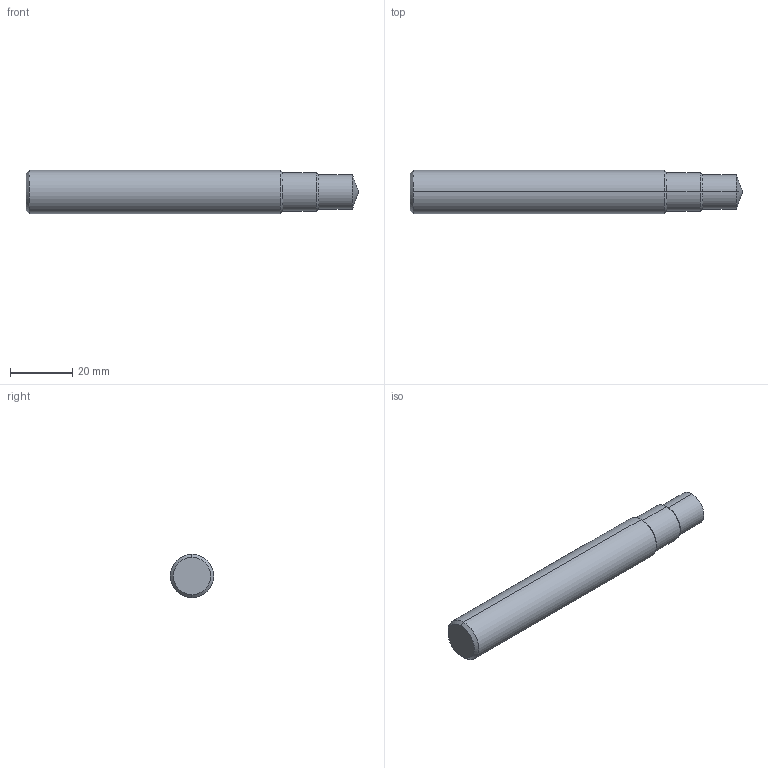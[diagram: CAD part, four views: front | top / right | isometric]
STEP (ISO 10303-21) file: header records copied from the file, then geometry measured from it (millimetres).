
FILE_DESCRIPTION (( 'STEP AP203' ), '1' );
FILE_NAME ('407030-RD-SAE-05A.STEP', '2024-10-02T18:09:15', ( '' ), ( '' ), 'SwSTEP 2.0', 'SolidWorks 2024', '' );
FILE_SCHEMA (( 'CONFIG_CONTROL_DESIGN' ));
Length unit declared in the file: inch
Products named in the file (1): 407030-RD-SAE-05A
Bounding box: 107 x 14 x 14 mm (x, y, z)
Volume: 15222.2 mm3; surface area: 4719.8 mm2
Topology: 1 solids, 1 shells, 16 faces, 30 edges, 16 vertices
Faces by surface type: cone 8, cylinder 6, plane 2
Entity records: 473 total; most frequent: DIRECTION 80, CARTESIAN_POINT 63, ORIENTED_EDGE 60, AXIS2_PLACEMENT_3D 33, EDGE_CURVE 30, EDGE_LOOP 16, VERTEX_POINT 16, CIRCLE 16
